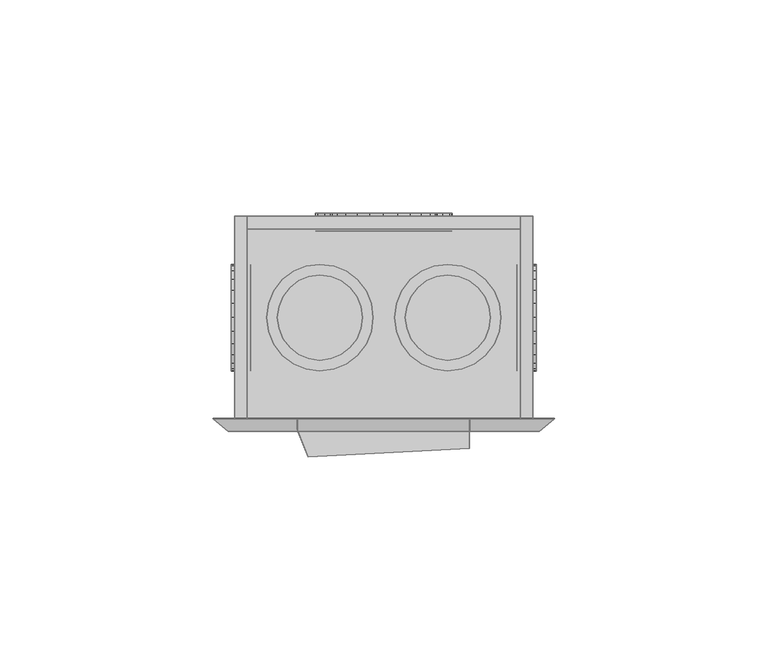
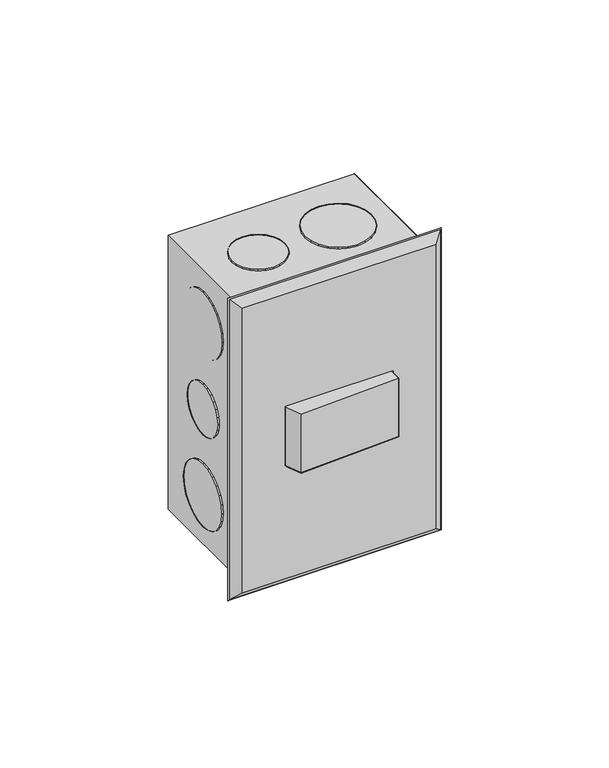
"""IFC4 building model written with IfcOpenShell, lengths in millimetres: proxy geometry,  210641 :  210641."""

from ifc_helpers import new_model, si_unit, origin, place, context, project, spatial, triangles, source, transform, mapped, element, save


def generic_models_0c8ca5c7(model_context):
    return source(origin(), model_context, "Body", "Tessellation", [
        triangles([(1721.3399895, 27548.6998535, 1254.3000378), (1718.3400272, 27548.6998535, 1148.7000154), (1721.3399895, 27548.6998535, 1145.6999805), (1718.3400272, 27548.6998535, 1251.2999302), (1651.3400471, 27548.6998535, 1254.3000378), (1654.3400093, 27548.6998535, 1251.2999302), (1651.3400471, 27548.6998535, 1145.6999805), (1654.3400093, 27548.6998535, 1148.7000154), (1718.3400272, 27596.1992798, 1251.2999302), (1718.3400272, 27596.1992798, 1148.7000154), (1651.3400471, 27596.1992798, 1254.3000378), (1651.3400471, 27596.1992798, 1145.6999805), (1654.3400093, 27596.1992798, 1251.2999302), (1721.3399895, 27596.1992798, 1145.6999805), (1654.3400093, 27596.1992798, 1148.7000154), (1721.3399895, 27596.1992798, 1254.3000378), (1718.3400272, 27593.1994629, 1251.2999302), (1654.3400093, 27593.1994629, 1148.7000154), (1718.3400272, 27593.1994629, 1148.7000154), (1654.3400093, 27593.1994629, 1251.2999302), (1700.2399693, 27592.6994934, 1191.9999887), (1694.3400387, 27592.6994934, 1186.0999855), (1697.6399826, 27592.6994934, 1188.6999722), (1701.8400169, 27592.6994934, 1195.8999687), (1690.5399799, 27592.6994934, 1184.5000105), (1702.3399864, 27592.6994934, 1200.0000092), (1686.3399456, 27592.6994934, 1183.9999683), (1701.8400169, 27592.6994934, 1204.0999769), (1682.2400505, 27592.6994934, 1184.5000105), (1700.2399693, 27592.6994934, 1208.0000296), (1678.3399979, 27592.6994934, 1186.0999855), (1697.6399826, 27592.6994934, 1211.2999735), (1675.0400539, 27592.6994934, 1188.6999722), (1694.3400387, 27592.6994934, 1213.9000328), (1672.5400612, 27592.6994934, 1191.9999887), (1690.5399799, 27592.6994934, 1215.5000078), (1670.9400135, 27592.6994934, 1195.8999687), (1686.3399456, 27592.6994934, 1215.9999773), (1670.3400501, 27592.6994934, 1200.0000092), (1682.2400505, 27592.6994934, 1215.5000078), (1670.9400135, 27592.6994934, 1204.0999769), (1678.3399979, 27592.6994934, 1213.9000328), (1672.5400612, 27592.6994934, 1208.0000296), (1675.0400539, 27592.6994934, 1211.2999735), (1682.2400505, 27596.8992371, 1184.5000105), (1686.3399456, 27596.8992371, 1183.9999683), (1690.5399799, 27596.8992371, 1184.5000105), (1694.3400387, 27596.8992371, 1186.0999855), (1697.6399826, 27596.8992371, 1188.6999722), (1700.2399693, 27596.8992371, 1191.9999887), (1701.8400169, 27596.8992371, 1195.8999687), (1702.3399864, 27596.8992371, 1200.0000092), (1701.8400169, 27596.8992371, 1204.0999769), (1700.2399693, 27596.8992371, 1208.0000296), (1697.6399826, 27596.8992371, 1211.2999735), (1694.3400387, 27596.8992371, 1213.9000328), (1690.5399799, 27596.8992371, 1215.5000078), (1686.3399456, 27596.8992371, 1215.9999773), (1682.2400505, 27596.8992371, 1215.5000078), (1678.3399979, 27596.8992371, 1213.9000328), (1675.0400539, 27596.8992371, 1211.2999735), (1672.5400612, 27596.8992371, 1208.0000296), (1670.9400135, 27596.8992371, 1204.0999769), (1670.3400501, 27596.8992371, 1200.0000092), (1670.9400135, 27596.8992371, 1195.8999687), (1672.5400612, 27596.8992371, 1191.9999887), (1675.0400539, 27596.8992371, 1188.6999722), (1678.3399979, 27596.8992371, 1186.0999855), (1697.240007, 27592.6994934, 1227.8000565), (1692.6399971, 27592.6994934, 1223.2000465), (1695.2399837, 27592.6994934, 1225.2000698), (1698.4399338, 27592.6994934, 1230.8000187), (1689.6400349, 27592.6994934, 1221.8999805), (1698.8400547, 27592.6994934, 1233.9999687), (1686.3399456, 27592.6994934, 1221.500005), (1698.4399338, 27592.6994934, 1237.2000641), (1683.1399956, 27592.6994934, 1221.8999805), (1697.240007, 27592.6994934, 1240.3000202), (1680.1400333, 27592.6994934, 1223.2000465), (1695.2399837, 27592.6994934, 1242.800013), (1677.5400467, 27592.6994934, 1225.2000698), (1675.5400234, 27592.6994934, 1227.8000565), (1692.6399971, 27592.6994934, 1244.8000362), (1689.6400349, 27592.6994934, 1246.0999569), (1674.3399513, 27592.6994934, 1230.8000187), (1686.3399456, 27592.6994934, 1246.4999325), (1673.8399818, 27592.6994934, 1233.9999687), (1683.1399956, 27592.6994934, 1246.0999569), (1674.3399513, 27592.6994934, 1237.2000641), (1675.5400234, 27592.6994934, 1240.3000202), (1680.1400333, 27592.6994934, 1244.8000362), (1677.5400467, 27592.6994934, 1242.800013), (1674.3399513, 27596.8992371, 1230.8000187), (1675.5400234, 27596.8992371, 1227.8000565), (1677.5400467, 27596.8992371, 1225.2000698), (1680.1400333, 27596.8992371, 1223.2000465), (1683.1399956, 27596.8992371, 1221.8999805), (1686.3399456, 27596.8992371, 1221.500005), (1689.6400349, 27596.8992371, 1221.8999805), (1692.6399971, 27596.8992371, 1223.2000465), (1695.2399837, 27596.8992371, 1225.2000698), (1697.240007, 27596.8992371, 1227.8000565), (1698.4399338, 27596.8992371, 1230.8000187), (1698.8400547, 27596.8992371, 1233.9999687), (1698.4399338, 27596.8992371, 1237.2000641), (1697.240007, 27596.8992371, 1240.3000202), (1695.2399837, 27596.8992371, 1242.800013), (1692.6399971, 27596.8992371, 1244.8000362), (1689.6400349, 27596.8992371, 1246.0999569), (1686.3399456, 27596.8992371, 1246.4999325), (1683.1399956, 27596.8992371, 1246.0999569), (1680.1400333, 27596.8992371, 1244.8000362), (1677.5400467, 27596.8992371, 1242.800013), (1675.5400234, 27596.8992371, 1240.3000202), (1674.3399513, 27596.8992371, 1237.2000641), (1673.8399818, 27596.8992371, 1233.9999687), (1692.6399971, 27596.8992371, 1155.1999821), (1697.240007, 27596.8992371, 1159.6999981), (1695.2399837, 27596.8992371, 1157.2000053), (1689.6400349, 27596.8992371, 1153.8999887), (1698.4399338, 27596.8992371, 1162.8000269), (1686.3399456, 27596.8992371, 1153.5000132), (1698.8400547, 27596.8992371, 1165.9999769), (1683.1399956, 27596.8992371, 1153.8999887), (1698.4399338, 27596.8992371, 1169.1999996), (1680.1400333, 27596.8992371, 1155.1999821), (1697.240007, 27596.8992371, 1172.2000345), (1677.5400467, 27596.8992371, 1157.2000053), (1695.2399837, 27596.8992371, 1174.8000212), (1675.5400234, 27596.8992371, 1159.6999981), (1692.6399971, 27596.8992371, 1176.7999718), (1674.3399513, 27596.8992371, 1162.8000269), (1689.6400349, 27596.8992371, 1178.0999651), (1686.3399456, 27596.8992371, 1178.5000134), (1673.8399818, 27596.8992371, 1165.9999769), (1674.3399513, 27596.8992371, 1169.1999996), (1683.1399956, 27596.8992371, 1178.0999651), (1675.5400234, 27596.8992371, 1172.2000345), (1680.1400333, 27596.8992371, 1176.7999718), (1677.5400467, 27596.8992371, 1174.8000212), (1689.6400349, 27592.6994934, 1178.0999651), (1686.3399456, 27592.6994934, 1178.5000134), (1692.6399971, 27592.6994934, 1176.7999718), (1695.2399837, 27592.6994934, 1174.8000212), (1697.240007, 27592.6994934, 1172.2000345), (1698.4399338, 27592.6994934, 1169.1999996), (1698.8400547, 27592.6994934, 1165.9999769), (1698.4399338, 27592.6994934, 1162.8000269), (1697.240007, 27592.6994934, 1159.6999981), (1695.2399837, 27592.6994934, 1157.2000053), (1692.6399971, 27592.6994934, 1155.1999821), (1689.6400349, 27592.6994934, 1153.8999887), (1686.3399456, 27592.6994934, 1153.5000132), (1683.1399956, 27592.6994934, 1153.8999887), (1680.1400333, 27592.6994934, 1155.1999821), (1677.5400467, 27592.6994934, 1157.2000053), (1675.5400234, 27592.6994934, 1159.6999981), (1674.3399513, 27592.6994934, 1162.8000269), (1673.8399818, 27592.6994934, 1165.9999769), (1674.3399513, 27592.6994934, 1169.1999996), (1675.5400234, 27592.6994934, 1172.2000345), (1677.5400467, 27592.6994934, 1174.8000212), (1680.1400333, 27592.6994934, 1176.7999718), (1683.1399956, 27592.6994934, 1178.0999651), (1717.5399307, 27577.4004272, 1191.3000315), (1717.5399307, 27581.1002014, 1195.0000237), (1717.5399307, 27579.5002991, 1192.9000065), (1717.5399307, 27582.1001404, 1197.4000225), (1717.5399307, 27575.0005737, 1190.3000198), (1717.5399307, 27582.4001221, 1200.0000092), (1717.5399307, 27572.4007324, 1189.9999655), (1717.5399307, 27569.900885, 1190.3000198), (1717.5399307, 27582.1001404, 1202.5999958), (1717.5399307, 27581.1002014, 1204.9999947), (1717.5399307, 27567.4010376, 1191.3000315), (1717.5399307, 27579.5002991, 1207.1000118), (1717.5399307, 27565.4011597, 1192.9000065), (1717.5399307, 27563.7989319, 1195.0000237), (1717.5399307, 27577.4004272, 1208.6999868), (1717.5399307, 27562.7989929, 1197.4000225), (1717.5399307, 27575.0005737, 1209.6999985), (1717.5399307, 27562.3990173, 1200.0000092), (1717.5399307, 27572.4007324, 1209.9999802), (1717.5399307, 27562.7989929, 1202.5999958), (1717.5399307, 27569.900885, 1209.6999985), (1717.5399307, 27567.4010376, 1208.6999868), (1717.5399307, 27563.7989319, 1204.9999947), (1717.5399307, 27565.4011597, 1207.1000118), (1722.1399406, 27572.4007324, 1189.9999655), (1722.1399406, 27575.0005737, 1190.3000198), (1722.1399406, 27569.900885, 1190.3000198), (1722.1399406, 27567.4010376, 1191.3000315), (1722.1399406, 27565.4011597, 1192.9000065), (1722.1399406, 27563.7989319, 1195.0000237), (1722.1399406, 27562.7989929, 1197.4000225), (1722.1399406, 27562.3990173, 1200.0000092), (1722.1399406, 27562.7989929, 1202.5999958), (1722.1399406, 27563.7989319, 1204.9999947), (1722.1399406, 27565.4011597, 1207.1000118), (1722.1399406, 27567.4010376, 1208.6999868), (1722.1399406, 27569.900885, 1209.6999985), (1722.1399406, 27572.4007324, 1209.9999802), (1722.1399406, 27575.0005737, 1209.6999985), (1722.1399406, 27577.4004272, 1208.6999868), (1722.1399406, 27579.5002991, 1207.1000118), (1722.1399406, 27581.1002014, 1204.9999947), (1722.1399406, 27582.1001404, 1202.5999958), (1722.1399406, 27582.4001221, 1200.0000092), (1722.1399406, 27582.1001404, 1197.4000225), (1722.1399406, 27581.1002014, 1195.0000237), (1722.1399406, 27579.5002991, 1192.9000065), (1722.1399406, 27577.4004272, 1191.3000315), (1717.5399307, 27578.7003479, 1223.2000465), (1717.5399307, 27583.3000671, 1227.8000565), (1717.5399307, 27581.3001892, 1225.2000698), (1717.5399307, 27575.700531, 1221.8999805), (1717.5399307, 27584.4999939, 1230.8000187), (1717.5399307, 27584.8999695, 1233.9999687), (1717.5399307, 27572.4007324, 1221.500005), (1717.5399307, 27569.2009277, 1221.8999805), (1717.5399307, 27584.4999939, 1237.2000641), (1717.5399307, 27583.3000671, 1240.3000202), (1717.5399307, 27566.2011108, 1223.2000465), (1717.5399307, 27563.5989441, 1225.2000698), (1717.5399307, 27581.3001892, 1242.800013), (1717.5399307, 27561.5990662, 1227.8000565), (1717.5399307, 27578.7003479, 1244.8000362), (1717.5399307, 27560.3991394, 1230.8000187), (1717.5399307, 27575.700531, 1246.0999569), (1717.5399307, 27559.8991699, 1233.9999687), (1717.5399307, 27572.4007324, 1246.4999325), (1717.5399307, 27560.3991394, 1237.2000641), (1717.5399307, 27569.2009277, 1246.0999569), (1717.5399307, 27561.5990662, 1240.3000202), (1717.5399307, 27566.2011108, 1244.8000362), (1717.5399307, 27563.5989441, 1242.800013), (1722.1399406, 27572.4007324, 1221.500005), (1722.1399406, 27575.700531, 1221.8999805), (1722.1399406, 27569.2009277, 1221.8999805), (1722.1399406, 27566.2011108, 1223.2000465), (1722.1399406, 27563.5989441, 1225.2000698), (1722.1399406, 27561.5990662, 1227.8000565), (1722.1399406, 27560.3991394, 1230.8000187), (1722.1399406, 27559.8991699, 1233.9999687), (1722.1399406, 27560.3991394, 1237.2000641), (1722.1399406, 27561.5990662, 1240.3000202), (1722.1399406, 27563.5989441, 1242.800013), (1722.1399406, 27566.2011108, 1244.8000362), (1722.1399406, 27569.2009277, 1246.0999569), (1722.1399406, 27572.4007324, 1246.4999325), (1722.1399406, 27575.700531, 1246.0999569), (1722.1399406, 27578.7003479, 1244.8000362), (1722.1399406, 27581.3001892, 1242.800013), (1722.1399406, 27583.3000671, 1240.3000202), (1722.1399406, 27584.4999939, 1237.2000641), (1722.1399406, 27584.8999695, 1233.9999687), (1722.1399406, 27584.4999939, 1230.8000187), (1722.1399406, 27583.3000671, 1227.8000565), (1722.1399406, 27581.3001892, 1225.2000698), (1722.1399406, 27578.7003479, 1223.2000465), (1722.1399406, 27583.3000671, 1159.6999981), (1722.1399406, 27578.7003479, 1155.1999821), (1722.1399406, 27581.3001892, 1157.2000053), (1722.1399406, 27584.4999939, 1162.8000269), (1722.1399406, 27575.700531, 1153.8999887), (1722.1399406, 27584.8999695, 1165.9999769), (1722.1399406, 27572.4007324, 1153.5000132), (1722.1399406, 27584.4999939, 1169.1999996), (1722.1399406, 27569.2009277, 1153.8999887), (1722.1399406, 27583.3000671, 1172.2000345), (1722.1399406, 27566.2011108, 1155.1999821), (1722.1399406, 27581.3001892, 1174.8000212), (1722.1399406, 27563.5989441, 1157.2000053), (1722.1399406, 27578.7003479, 1176.7999718), (1722.1399406, 27561.5990662, 1159.6999981), (1722.1399406, 27575.700531, 1178.0999651), (1722.1399406, 27560.3991394, 1162.8000269), (1722.1399406, 27572.4007324, 1178.5000134), (1722.1399406, 27559.8991699, 1165.9999769), (1722.1399406, 27569.2009277, 1178.0999651), (1722.1399406, 27560.3991394, 1169.1999996), (1722.1399406, 27566.2011108, 1176.7999718), (1722.1399406, 27561.5990662, 1172.2000345), (1722.1399406, 27563.5989441, 1174.8000212), (1717.5399307, 27575.700531, 1178.0999651), (1717.5399307, 27572.4007324, 1178.5000134), (1717.5399307, 27569.2009277, 1178.0999651), (1717.5399307, 27566.2011108, 1176.7999718), (1717.5399307, 27563.5989441, 1174.8000212), (1717.5399307, 27561.5990662, 1172.2000345), (1717.5399307, 27560.3991394, 1169.1999996), (1717.5399307, 27559.8991699, 1165.9999769), (1717.5399307, 27560.3991394, 1162.8000269), (1717.5399307, 27561.5990662, 1159.6999981), (1717.5399307, 27563.5989441, 1157.2000053), (1717.5399307, 27566.2011108, 1155.1999821), (1717.5399307, 27569.2009277, 1153.8999887), (1717.5399307, 27572.4007324, 1153.5000132), (1717.5399307, 27575.700531, 1153.8999887), (1717.5399307, 27578.7003479, 1155.1999821), (1717.5399307, 27581.3001892, 1157.2000053), (1717.5399307, 27583.3000671, 1159.6999981), (1717.5399307, 27584.4999939, 1162.8000269), (1717.5399307, 27584.8999695, 1165.9999769), (1717.5399307, 27584.4999939, 1169.1999996), (1717.5399307, 27583.3000671, 1172.2000345), (1717.5399307, 27581.3001892, 1174.8000212), (1717.5399307, 27578.7003479, 1176.7999718), (1655.1399605, 27581.1002014, 1195.0000237), (1655.1399605, 27577.4004272, 1191.3000315), (1655.1399605, 27579.5002991, 1192.9000065), (1655.1399605, 27582.1001404, 1197.4000225), (1655.1399605, 27575.0005737, 1190.3000198), (1655.1399605, 27582.4001221, 1200.0000092), (1655.1399605, 27572.4007324, 1189.9999655), (1655.1399605, 27582.1001404, 1202.5999958), (1655.1399605, 27569.900885, 1190.3000198), (1655.1399605, 27581.1002014, 1204.9999947), (1655.1399605, 27567.4010376, 1191.3000315), (1655.1399605, 27579.5002991, 1207.1000118), (1655.1399605, 27565.4011597, 1192.9000065), (1655.1399605, 27577.4004272, 1208.6999868), (1655.1399605, 27563.7989319, 1195.0000237), (1655.1399605, 27575.0005737, 1209.6999985), (1655.1399605, 27562.7989929, 1197.4000225), (1655.1399605, 27562.3990173, 1200.0000092), (1655.1399605, 27572.4007324, 1209.9999802), (1655.1399605, 27569.900885, 1209.6999985), (1655.1399605, 27562.7989929, 1202.5999958), (1655.1399605, 27567.4010376, 1208.6999868), (1655.1399605, 27563.7989319, 1204.9999947), (1655.1399605, 27565.4011597, 1207.1000118), (1650.5399506, 27575.0005737, 1209.6999985), (1650.5399506, 27572.4007324, 1209.9999802), (1650.5399506, 27569.900885, 1209.6999985), (1650.5399506, 27567.4010376, 1208.6999868), (1650.5399506, 27565.4011597, 1207.1000118), (1650.5399506, 27563.7989319, 1204.9999947), (1650.5399506, 27562.7989929, 1202.5999958), (1650.5399506, 27562.3990173, 1200.0000092), (1650.5399506, 27562.7989929, 1197.4000225), (1650.5399506, 27563.7989319, 1195.0000237), (1650.5399506, 27565.4011597, 1192.9000065), (1650.5399506, 27567.4010376, 1191.3000315), (1650.5399506, 27569.900885, 1190.3000198), (1650.5399506, 27572.4007324, 1189.9999655), (1650.5399506, 27575.0005737, 1190.3000198), (1650.5399506, 27577.4004272, 1191.3000315), (1650.5399506, 27579.5002991, 1192.9000065), (1650.5399506, 27581.1002014, 1195.0000237), (1650.5399506, 27582.1001404, 1197.4000225), (1650.5399506, 27582.4001221, 1200.0000092), (1650.5399506, 27582.1001404, 1202.5999958), (1650.5399506, 27581.1002014, 1204.9999947), (1650.5399506, 27579.5002991, 1207.1000118), (1650.5399506, 27577.4004272, 1208.6999868), (1655.1399605, 27583.3000671, 1159.6999981), (1655.1399605, 27578.7003479, 1155.1999821), (1655.1399605, 27581.3001892, 1157.2000053), (1655.1399605, 27584.4999939, 1162.8000269), (1655.1399605, 27575.700531, 1153.8999887), (1655.1399605, 27584.8999695, 1165.9999769), (1655.1399605, 27572.4007324, 1153.5000132), (1655.1399605, 27584.4999939, 1169.1999996), (1655.1399605, 27569.2009277, 1153.8999887), (1655.1399605, 27583.3000671, 1172.2000345), (1655.1399605, 27566.2011108, 1155.1999821), (1655.1399605, 27581.3001892, 1174.8000212), (1655.1399605, 27563.5989441, 1157.2000053), (1655.1399605, 27578.7003479, 1176.7999718), (1655.1399605, 27561.5990662, 1159.6999981), (1655.1399605, 27575.700531, 1178.0999651), (1655.1399605, 27560.3991394, 1162.8000269), (1655.1399605, 27572.4007324, 1178.5000134), (1655.1399605, 27559.8991699, 1165.9999769), (1655.1399605, 27569.2009277, 1178.0999651), (1655.1399605, 27560.3991394, 1169.1999996), (1655.1399605, 27566.2011108, 1176.7999718), (1655.1399605, 27561.5990662, 1172.2000345), (1655.1399605, 27563.5989441, 1174.8000212), (1650.5399506, 27575.700531, 1178.0999651), (1650.5399506, 27572.4007324, 1178.5000134), (1650.5399506, 27569.2009277, 1178.0999651), (1650.5399506, 27566.2011108, 1176.7999718), (1650.5399506, 27563.5989441, 1174.8000212), (1650.5399506, 27561.5990662, 1172.2000345), (1650.5399506, 27560.3991394, 1169.1999996), (1650.5399506, 27559.8991699, 1165.9999769), (1650.5399506, 27560.3991394, 1162.8000269), (1650.5399506, 27561.5990662, 1159.6999981), (1650.5399506, 27563.5989441, 1157.2000053), (1650.5399506, 27566.2011108, 1155.1999821), (1650.5399506, 27569.2009277, 1153.8999887), (1650.5399506, 27572.4007324, 1153.5000132), (1650.5399506, 27575.700531, 1153.8999887), (1650.5399506, 27578.7003479, 1155.1999821), (1650.5399506, 27581.3001892, 1157.2000053), (1650.5399506, 27583.3000671, 1159.6999981), (1650.5399506, 27584.4999939, 1162.8000269), (1650.5399506, 27584.8999695, 1165.9999769), (1650.5399506, 27584.4999939, 1169.1999996), (1650.5399506, 27583.3000671, 1172.2000345), (1650.5399506, 27581.3001892, 1174.8000212), (1650.5399506, 27578.7003479, 1176.7999718), (1650.5399506, 27578.7003479, 1223.2000465), (1650.5399506, 27583.3000671, 1227.8000565), (1650.5399506, 27581.3001892, 1225.2000698), (1650.5399506, 27575.700531, 1221.8999805), (1650.5399506, 27584.4999939, 1230.8000187), (1650.5399506, 27584.8999695, 1233.9999687), (1650.5399506, 27572.4007324, 1221.500005), (1650.5399506, 27569.2009277, 1221.8999805), (1650.5399506, 27584.4999939, 1237.2000641), (1650.5399506, 27583.3000671, 1240.3000202), (1650.5399506, 27566.2011108, 1223.2000465), (1650.5399506, 27563.5989441, 1225.2000698), (1650.5399506, 27581.3001892, 1242.800013), (1650.5399506, 27561.5990662, 1227.8000565), (1650.5399506, 27578.7003479, 1244.8000362), (1650.5399506, 27560.3991394, 1230.8000187), (1650.5399506, 27575.700531, 1246.0999569), (1650.5399506, 27559.8991699, 1233.9999687), (1650.5399506, 27572.4007324, 1246.4999325), (1650.5399506, 27560.3991394, 1237.2000641), (1650.5399506, 27569.2009277, 1246.0999569), (1650.5399506, 27561.5990662, 1240.3000202), (1650.5399506, 27566.2011108, 1244.8000362), (1650.5399506, 27563.5989441, 1242.800013), (1655.1399605, 27572.4007324, 1221.500005), (1655.1399605, 27575.700531, 1221.8999805), (1655.1399605, 27569.2009277, 1221.8999805), (1655.1399605, 27566.2011108, 1223.2000465), (1655.1399605, 27563.5989441, 1225.2000698), (1655.1399605, 27561.5990662, 1227.8000565), (1655.1399605, 27560.3991394, 1230.8000187), (1655.1399605, 27559.8991699, 1233.9999687), (1655.1399605, 27560.3991394, 1237.2000641), (1655.1399605, 27561.5990662, 1240.3000202), (1655.1399605, 27563.5989441, 1242.800013), (1655.1399605, 27566.2011108, 1244.8000362), (1655.1399605, 27569.2009277, 1246.0999569), (1655.1399605, 27572.4007324, 1246.4999325), (1655.1399605, 27575.700531, 1246.0999569), (1655.1399605, 27578.7003479, 1244.8000362), (1655.1399605, 27581.3001892, 1242.800013), (1655.1399605, 27583.3000671, 1240.3000202), (1655.1399605, 27584.4999939, 1237.2000641), (1655.1399605, 27584.8999695, 1233.9999687), (1655.1399605, 27584.4999939, 1230.8000187), (1655.1399605, 27583.3000671, 1227.8000565), (1655.1399605, 27581.3001892, 1225.2000698), (1655.1399605, 27578.7003479, 1223.2000465), (1712.2399635, 27578.7003479, 1250.9999485), (1707.6399536, 27583.3000671, 1250.9999485), (1710.2399403, 27581.3001892, 1250.9999485), (1713.4400356, 27575.700531, 1250.9999485), (1704.6399914, 27584.4999939, 1250.9999485), (1701.3400475, 27584.8999695, 1250.9999485), (1713.8400112, 27572.4007324, 1250.9999485), (1713.4400356, 27569.2009277, 1250.9999485), (1698.1399521, 27584.4999939, 1250.9999485), (1695.1399899, 27583.3000671, 1250.9999485), (1712.2399635, 27566.2011108, 1250.9999485), (1710.2399403, 27563.5989441, 1250.9999485), (1692.5400032, 27581.3001892, 1250.9999485), (1690.5399799, 27578.7003479, 1250.9999485), (1707.6399536, 27561.5990662, 1250.9999485), (1704.6399914, 27560.3991394, 1250.9999485), (1689.3400532, 27575.700531, 1250.9999485), (1701.3400475, 27559.8991699, 1250.9999485), (1688.8399384, 27572.4007324, 1250.9999485), (1698.1399521, 27560.3991394, 1250.9999485), (1689.3400532, 27569.2009277, 1250.9999485), (1690.5399799, 27566.2011108, 1250.9999485), (1695.1399899, 27561.5990662, 1250.9999485), (1692.5400032, 27563.5989441, 1250.9999485), (1701.3400475, 27584.8999695, 1255.1999828), (1698.1399521, 27584.4999939, 1255.1999828), (1704.6399914, 27584.4999939, 1255.1999828), (1707.6399536, 27583.3000671, 1255.1999828), (1710.2399403, 27581.3001892, 1255.1999828), (1712.2399635, 27578.7003479, 1255.1999828), (1713.4400356, 27575.700531, 1255.1999828), (1713.8400112, 27572.4007324, 1255.1999828), (1713.4400356, 27569.2009277, 1255.1999828), (1712.2399635, 27566.2011108, 1255.1999828), (1710.2399403, 27563.5989441, 1255.1999828), (1707.6399536, 27561.5990662, 1255.1999828), (1704.6399914, 27560.3991394, 1255.1999828), (1701.3400475, 27559.8991699, 1255.1999828), (1698.1399521, 27560.3991394, 1255.1999828), (1695.1399899, 27561.5990662, 1255.1999828), (1692.5400032, 27563.5989441, 1255.1999828), (1690.5399799, 27566.2011108, 1255.1999828), (1689.3400532, 27569.2009277, 1255.1999828), (1688.8399384, 27572.4007324, 1255.1999828), (1689.3400532, 27575.700531, 1255.1999828), (1690.5399799, 27578.7003479, 1255.1999828), (1692.5400032, 27581.3001892, 1255.1999828), (1695.1399899, 27583.3000671, 1255.1999828), (1680.0400394, 27577.4004272, 1250.9999485), (1676.3399746, 27581.1002014, 1250.9999485), (1678.4399918, 27579.5002991, 1250.9999485), (1673.9399757, 27582.1001404, 1250.9999485), (1681.0399784, 27575.0005737, 1250.9999485), (1671.3399891, 27582.4001221, 1250.9999485), (1681.3399601, 27572.4007324, 1250.9999485), (1681.0399784, 27569.900885, 1250.9999485), (1668.7400024, 27582.1001404, 1250.9999485), (1666.3400036, 27581.1002014, 1250.9999485), (1680.0400394, 27567.4010376, 1250.9999485), (1664.3399803, 27579.5002991, 1250.9999485), (1678.4399918, 27565.4011597, 1250.9999485), (1676.3399746, 27563.7989319, 1250.9999485), (1662.7399326, 27577.4004272, 1250.9999485), (1661.7399937, 27575.0005737, 1250.9999485), (1673.9399757, 27562.7989929, 1250.9999485), (1671.3399891, 27562.3990173, 1250.9999485), (1661.3400181, 27572.4007324, 1250.9999485), (1668.7400024, 27562.7989929, 1250.9999485), (1661.7399937, 27569.900885, 1250.9999485), (1666.3400036, 27563.7989319, 1250.9999485), (1662.7399326, 27567.4010376, 1250.9999485), (1664.3399803, 27565.4011597, 1250.9999485), (1668.7400024, 27582.1001404, 1255.1999828), (1666.3400036, 27581.1002014, 1255.1999828), (1671.3399891, 27582.4001221, 1255.1999828), (1673.9399757, 27582.1001404, 1255.1999828), (1676.3399746, 27581.1002014, 1255.1999828), (1678.4399918, 27579.5002991, 1255.1999828), (1680.0400394, 27577.4004272, 1255.1999828), (1681.0399784, 27575.0005737, 1255.1999828), (1681.3399601, 27572.4007324, 1255.1999828), (1681.0399784, 27569.900885, 1255.1999828), (1680.0400394, 27567.4010376, 1255.1999828), (1678.4399918, 27565.4011597, 1255.1999828), (1676.3399746, 27563.7989319, 1255.1999828), (1673.9399757, 27562.7989929, 1255.1999828), (1671.3399891, 27562.3990173, 1255.1999828), (1668.7400024, 27562.7989929, 1255.1999828), (1666.3400036, 27563.7989319, 1255.1999828), (1664.3399803, 27565.4011597, 1255.1999828), (1662.7399326, 27567.4010376, 1255.1999828), (1661.7399937, 27569.900885, 1255.1999828), (1661.3400181, 27572.4007324, 1255.1999828), (1661.7399937, 27575.0005737, 1255.1999828), (1662.7399326, 27577.4004272, 1255.1999828), (1664.3399803, 27579.5002991, 1255.1999828), (1710.0399525, 27577.4004272, 1144.8000355), (1706.340033, 27581.1002014, 1144.8000355), (1708.4400501, 27579.5002991, 1144.8000355), (1703.9400341, 27582.1001404, 1144.8000355), (1711.0400368, 27575.0005737, 1144.8000355), (1701.3400475, 27582.4001221, 1144.8000355), (1711.3400185, 27572.4007324, 1144.8000355), (1711.0400368, 27569.900885, 1144.8000355), (1698.7400608, 27582.1001404, 1144.8000355), (1696.340062, 27581.1002014, 1144.8000355), (1710.0399525, 27567.4010376, 1144.8000355), (1694.3400387, 27579.5002991, 1144.8000355), (1708.4400501, 27565.4011597, 1144.8000355), (1706.340033, 27563.7989319, 1144.8000355), (1692.739991, 27577.4004272, 1144.8000355), (1691.740052, 27575.0005737, 1144.8000355), (1703.9400341, 27562.7989929, 1144.8000355), (1701.3400475, 27562.3990173, 1144.8000355), (1691.3399311, 27572.4007324, 1144.8000355), (1698.7400608, 27562.7989929, 1144.8000355), (1691.740052, 27569.900885, 1144.8000355), (1696.340062, 27563.7989319, 1144.8000355), (1692.739991, 27567.4010376, 1144.8000355), (1694.3400387, 27565.4011597, 1144.8000355), (1703.9400341, 27582.1001404, 1149.099991), (1701.3400475, 27582.4001221, 1149.099991), (1706.340033, 27581.1002014, 1149.099991), (1708.4400501, 27579.5002991, 1149.099991), (1710.0399525, 27577.4004272, 1149.099991), (1711.0400368, 27575.0005737, 1149.099991), (1711.3400185, 27572.4007324, 1149.099991), (1711.0400368, 27569.900885, 1149.099991), (1710.0399525, 27567.4010376, 1149.099991), (1708.4400501, 27565.4011597, 1149.099991), (1706.340033, 27563.7989319, 1149.099991), (1703.9400341, 27562.7989929, 1149.099991), (1701.3400475, 27562.3990173, 1149.099991), (1698.7400608, 27562.7989929, 1149.099991), (1696.340062, 27563.7989319, 1149.099991), (1694.3400387, 27565.4011597, 1149.099991), (1692.739991, 27567.4010376, 1149.099991), (1691.740052, 27569.900885, 1149.099991), (1691.3399311, 27572.4007324, 1149.099991), (1691.740052, 27575.0005737, 1149.099991), (1692.739991, 27577.4004272, 1149.099991), (1694.3400387, 27579.5002991, 1149.099991), (1696.340062, 27581.1002014, 1149.099991), (1698.7400608, 27582.1001404, 1149.099991), (1682.2400505, 27578.7003479, 1144.8000355), (1677.6400406, 27583.3000671, 1144.8000355), (1680.2400272, 27581.3001892, 1144.8000355), (1683.4399773, 27575.700531, 1144.8000355), (1674.639933, 27584.4999939, 1144.8000355), (1671.3399891, 27584.8999695, 1144.8000355), (1683.8399529, 27572.4007324, 1144.8000355), (1683.4399773, 27569.2009277, 1144.8000355), (1668.1400391, 27584.4999939, 1144.8000355), (1665.1399315, 27583.3000671, 1144.8000355), (1682.2400505, 27566.2011108, 1144.8000355), (1680.2400272, 27563.5989441, 1144.8000355), (1662.5399448, 27581.3001892, 1144.8000355), (1660.5400669, 27578.7003479, 1144.8000355), (1677.6400406, 27561.5990662, 1144.8000355), (1674.639933, 27560.3991394, 1144.8000355), (1659.3399948, 27575.700531, 1144.8000355), (1671.3399891, 27559.8991699, 1144.8000355), (1658.8400253, 27572.4007324, 1144.8000355), (1668.1400391, 27560.3991394, 1144.8000355), (1659.3399948, 27569.2009277, 1144.8000355), (1660.5400669, 27566.2011108, 1144.8000355), (1665.1399315, 27561.5990662, 1144.8000355), (1662.5399448, 27563.5989441, 1144.8000355), (1668.1400391, 27584.4999939, 1149.099991), (1665.1399315, 27583.3000671, 1149.099991), (1671.3399891, 27584.8999695, 1149.099991), (1674.639933, 27584.4999939, 1149.099991), (1677.6400406, 27583.3000671, 1149.099991), (1680.2400272, 27581.3001892, 1149.099991), (1682.2400505, 27578.7003479, 1149.099991), (1683.4399773, 27575.700531, 1149.099991), (1683.8399529, 27572.4007324, 1149.099991), (1683.4399773, 27569.2009277, 1149.099991), (1682.2400505, 27566.2011108, 1149.099991), (1680.2400272, 27563.5989441, 1149.099991), (1677.6400406, 27561.5990662, 1149.099991), (1674.639933, 27560.3991394, 1149.099991), (1671.3399891, 27559.8991699, 1149.099991), (1668.1400391, 27560.3991394, 1149.099991), (1665.1399315, 27561.5990662, 1149.099991), (1662.5399448, 27563.5989441, 1149.099991), (1660.5400669, 27566.2011108, 1149.099991), (1659.3399948, 27569.2009277, 1149.099991), (1658.8400253, 27572.4007324, 1149.099991), (1659.3399948, 27575.700531, 1149.099991), (1660.5400669, 27578.7003479, 1149.099991), (1662.5399448, 27581.3001892, 1149.099991), (1646.3400616, 27548.6998535, 1139.9999651), (1706.5400208, 27548.6998535, 1188.2999966), (1726.339975, 27548.6998535, 1139.9999651), (1666.1400158, 27548.6998535, 1188.2999966), (1646.3400616, 27548.6998535, 1259.9999805), (1666.1400158, 27548.6998535, 1211.7000217), (1726.339975, 27548.6998535, 1259.9999805), (1706.5400208, 27548.6998535, 1211.7000217), (1666.1400158, 27545.7000366, 1188.2999966), (1666.1400158, 27545.7000366, 1211.7000217), (1706.5400208, 27545.7000366, 1188.2999966), (1706.5400208, 27545.7000366, 1211.7000217), (1722.8400433, 27545.7000366, 1143.4999695), (1722.8400433, 27545.7000366, 1256.5000488), (1649.8399933, 27545.7000366, 1143.4999695), (1649.8399933, 27545.7000366, 1256.5000488), (1706.4400269, 27541.7002808, 1188.1000088), (1666.0400219, 27548.6998535, 1188.1000088), (1706.4400269, 27548.6998535, 1188.1000088), (1668.6400085, 27539.8003967, 1188.1000088), (1666.0400219, 27546.2000061, 1188.1000088), (1706.4400269, 27548.6998535, 1211.500034), (1666.0400219, 27548.6998535, 1211.500034), (1706.4400269, 27541.7002808, 1211.500034), (1668.6400085, 27539.8003967, 1211.500034), (1666.0400219, 27546.2000061, 1211.500034)], [[1, 2, 3], [2, 1, 4], [5, 4, 1], [4, 5, 6], [3, 2, 7], [7, 2, 8], [7, 8, 6], [7, 6, 5], [2, 9, 10], [9, 2, 4], [7, 11, 12], [11, 7, 5], [4, 13, 9], [13, 4, 6], [3, 12, 14], [12, 3, 7], [13, 8, 15], [8, 13, 6], [16, 3, 14], [3, 16, 1], [15, 2, 10], [2, 15, 8], [11, 1, 16], [1, 11, 5], [12, 10, 14], [10, 12, 15], [11, 15, 12], [15, 11, 13], [14, 10, 16], [16, 10, 9], [16, 9, 13], [16, 13, 11], [17, 18, 19], [18, 17, 20], [18, 13, 15], [13, 18, 20], [19, 15, 10], [15, 19, 18], [9, 19, 10], [19, 9, 17], [13, 17, 9], [17, 13, 20], [15, 9, 10], [9, 15, 13], [21, 22, 23], [22, 21, 24], [25, 22, 24], [25, 24, 26], [27, 25, 26], [27, 26, 28], [29, 27, 28], [29, 28, 30], [31, 29, 30], [31, 30, 32], [31, 32, 33], [33, 32, 34], [33, 34, 35], [35, 34, 36], [35, 36, 37], [37, 36, 38], [37, 38, 39], [39, 38, 40], [39, 40, 41], [41, 40, 42], [41, 42, 43], [43, 42, 44], [27, 45, 46], [45, 27, 29], [25, 46, 47], [46, 25, 27], [22, 47, 48], [47, 22, 25], [23, 48, 49], [48, 23, 22], [50, 23, 49], [23, 50, 21], [51, 21, 50], [21, 51, 24], [52, 24, 51], [24, 52, 26], [53, 26, 52], [26, 53, 28], [54, 28, 53], [28, 54, 30], [55, 30, 54], [30, 55, 32], [56, 32, 55], [32, 56, 34], [57, 34, 56], [34, 57, 36], [58, 36, 57], [36, 58, 38], [59, 38, 58], [38, 59, 40], [60, 40, 59], [40, 60, 42], [61, 42, 60], [42, 61, 44], [43, 61, 62], [61, 43, 44], [41, 62, 63], [62, 41, 43], [39, 63, 64], [63, 39, 41], [37, 64, 65], [64, 37, 39], [35, 65, 66], [65, 35, 37], [33, 66, 67], [66, 33, 35], [31, 67, 68], [67, 31, 33], [29, 68, 45], [68, 29, 31], [48, 50, 49], [50, 48, 47], [51, 50, 47], [51, 47, 46], [52, 51, 46], [52, 46, 45], [53, 52, 45], [53, 45, 68], [54, 53, 68], [54, 68, 67], [54, 67, 55], [55, 67, 66], [55, 66, 56], [56, 66, 65], [56, 65, 57], [57, 65, 64], [57, 64, 58], [58, 64, 63], [58, 63, 59], [59, 63, 62], [59, 62, 60], [60, 62, 61], [69, 70, 71], [70, 69, 72], [73, 70, 72], [73, 72, 74], [75, 73, 74], [75, 74, 76], [77, 75, 76], [77, 76, 78], [79, 77, 78], [79, 78, 80], [81, 79, 80], [81, 80, 82], [82, 80, 83], [82, 83, 84], [82, 84, 85], [85, 84, 86], [85, 86, 87], [87, 86, 88], [87, 88, 89], [89, 88, 90], [90, 88, 91], [90, 91, 92], [82, 93, 94], [93, 82, 85], [81, 94, 95], [94, 81, 82], [79, 95, 96], [95, 79, 81], [77, 96, 97], [96, 77, 79], [75, 97, 98], [97, 75, 77], [73, 98, 99], [98, 73, 75], [70, 99, 100], [99, 70, 73], [71, 100, 101], [100, 71, 70], [102, 71, 101], [71, 102, 69], [103, 69, 102], [69, 103, 72], [104, 72, 103], [72, 104, 74], [105, 74, 104], [74, 105, 76], [106, 76, 105], [76, 106, 78], [107, 78, 106], [78, 107, 80], [108, 80, 107], [80, 108, 83], [109, 83, 108], [83, 109, 84], [110, 84, 109], [84, 110, 86], [111, 86, 110], [86, 111, 88], [112, 88, 111], [88, 112, 91], [113, 91, 112], [91, 113, 92], [90, 113, 114], [113, 90, 92], [89, 114, 115], [114, 89, 90], [87, 115, 116], [115, 87, 89], [85, 116, 93], [116, 85, 87], [100, 102, 101], [102, 100, 99], [103, 102, 99], [103, 99, 98], [104, 103, 98], [104, 98, 97], [105, 104, 97], [106, 105, 97], [106, 97, 96], [106, 96, 95], [106, 95, 107], [107, 95, 94], [107, 94, 108], [108, 94, 93], [108, 93, 109], [109, 93, 116], [109, 116, 110], [110, 116, 115], [110, 115, 111], [111, 115, 114], [111, 114, 112], [112, 114, 113], [117, 118, 119], [118, 117, 120], [121, 118, 120], [121, 120, 122], [123, 121, 122], [123, 122, 124], [125, 123, 124], [125, 124, 126], [127, 125, 126], [127, 126, 128], [127, 128, 129], [129, 128, 130], [129, 130, 131], [131, 130, 132], [131, 132, 133], [133, 132, 134], [134, 132, 135], [134, 135, 136], [134, 136, 137], [137, 136, 138], [137, 138, 139], [139, 138, 140], [134, 141, 133], [141, 134, 142], [133, 143, 131], [143, 133, 141], [131, 144, 129], [144, 131, 143], [129, 145, 127], [145, 129, 144], [127, 146, 125], [146, 127, 145], [125, 147, 123], [147, 125, 146], [123, 148, 121], [148, 123, 147], [121, 149, 118], [149, 121, 148], [118, 150, 119], [150, 118, 149], [150, 117, 119], [117, 150, 151], [151, 120, 117], [120, 151, 152], [152, 122, 120], [122, 152, 153], [153, 124, 122], [124, 153, 154], [154, 126, 124], [126, 154, 155], [155, 128, 126], [128, 155, 156], [156, 130, 128], [130, 156, 157], [157, 132, 130], [132, 157, 158], [158, 135, 132], [135, 158, 159], [159, 136, 135], [136, 159, 160], [160, 138, 136], [138, 160, 161], [161, 140, 138], [140, 161, 162], [140, 163, 139], [163, 140, 162], [139, 164, 137], [164, 139, 163], [137, 142, 134], [142, 137, 164], [149, 151, 150], [151, 149, 148], [152, 151, 148], [153, 152, 148], [153, 148, 147], [153, 147, 146], [154, 153, 146], [154, 146, 145], [155, 154, 145], [155, 145, 144], [156, 155, 144], [156, 144, 157], [157, 144, 143], [157, 143, 141], [157, 141, 158], [158, 141, 142], [158, 142, 159], [159, 142, 164], [159, 164, 160], [160, 164, 163], [160, 163, 161], [161, 163, 162], [165, 166, 167], [168, 166, 165], [168, 165, 169], [170, 168, 169], [170, 169, 171], [170, 171, 172], [173, 170, 172], [174, 173, 172], [174, 172, 175], [176, 174, 175], [176, 175, 177], [176, 177, 178], [176, 178, 179], [179, 178, 180], [179, 180, 181], [181, 180, 182], [181, 182, 183], [183, 182, 184], [183, 184, 185], [185, 184, 186], [186, 184, 187], [186, 187, 188], [189, 169, 190], [169, 189, 171], [191, 171, 189], [171, 191, 172], [192, 172, 191], [172, 192, 175], [193, 175, 192], [175, 193, 177], [194, 177, 193], [177, 194, 178], [195, 178, 194], [178, 195, 180], [196, 180, 195], [180, 196, 182], [197, 182, 196], [182, 197, 184], [198, 184, 197], [184, 198, 187], [199, 187, 198], [187, 199, 188], [186, 199, 200], [199, 186, 188], [185, 200, 201], [200, 185, 186], [183, 201, 202], [201, 183, 185], [181, 202, 203], [202, 181, 183], [179, 203, 204], [203, 179, 181], [176, 204, 205], [204, 176, 179], [174, 205, 206], [205, 174, 176], [173, 206, 207], [206, 173, 174], [170, 207, 208], [207, 170, 173], [168, 208, 209], [208, 168, 170], [166, 209, 210], [209, 166, 168], [167, 210, 211], [210, 167, 166], [212, 167, 211], [167, 212, 165], [190, 165, 212], [165, 190, 169], [210, 212, 211], [212, 210, 209], [190, 212, 209], [190, 209, 208], [189, 190, 208], [189, 208, 207], [191, 189, 207], [191, 207, 206], [192, 191, 206], [192, 206, 205], [192, 205, 193], [193, 205, 204], [193, 204, 194], [194, 204, 203], [194, 203, 195], [195, 203, 196], [196, 203, 202], [196, 202, 201], [196, 201, 197], [197, 201, 200], [197, 200, 198], [198, 200, 199], [213, 214, 215], [214, 213, 216], [217, 214, 216], [218, 217, 216], [218, 216, 219], [218, 219, 220], [221, 218, 220], [222, 221, 220], [222, 220, 223], [222, 223, 224], [222, 224, 225], [225, 224, 226], [225, 226, 227], [227, 226, 228], [227, 228, 229], [229, 228, 230], [229, 230, 231], [231, 230, 232], [231, 232, 233], [233, 232, 234], [233, 234, 235], [235, 234, 236], [237, 216, 238], [216, 237, 219], [239, 219, 237], [219, 239, 220], [240, 220, 239], [220, 240, 223], [241, 223, 240], [223, 241, 224], [242, 224, 241], [224, 242, 226], [243, 226, 242], [226, 243, 228], [244, 228, 243], [228, 244, 230], [245, 230, 244], [230, 245, 232], [246, 232, 245], [232, 246, 234], [247, 234, 246], [234, 247, 236], [235, 247, 248], [247, 235, 236], [233, 248, 249], [248, 233, 235], [231, 249, 250], [249, 231, 233], [229, 250, 251], [250, 229, 231], [227, 251, 252], [251, 227, 229], [225, 252, 253], [252, 225, 227], [222, 253, 254], [253, 222, 225], [221, 254, 255], [254, 221, 222], [218, 255, 256], [255, 218, 221], [217, 256, 257], [256, 217, 218], [214, 257, 258], [257, 214, 217], [215, 258, 259], [258, 215, 214], [260, 215, 259], [215, 260, 213], [238, 213, 260], [213, 238, 216], [258, 260, 259], [260, 258, 257], [238, 260, 257], [238, 257, 256], [237, 238, 256], [237, 256, 255], [239, 237, 255], [239, 255, 254], [240, 239, 254], [240, 254, 253], [241, 240, 253], [241, 253, 252], [241, 252, 242], [242, 252, 251], [242, 251, 243], [243, 251, 244], [244, 251, 250], [244, 250, 249], [244, 249, 245], [245, 249, 246], [246, 249, 248], [246, 248, 247], [261, 262, 263], [262, 261, 264], [265, 262, 264], [265, 264, 266], [267, 265, 266], [267, 266, 268], [269, 267, 268], [269, 268, 270], [271, 269, 270], [271, 270, 272], [273, 271, 272], [273, 272, 274], [273, 274, 275], [275, 274, 276], [275, 276, 277], [277, 276, 278], [277, 278, 279], [279, 278, 280], [279, 280, 281], [281, 280, 282], [281, 282, 283], [283, 282, 284], [285, 278, 276], [278, 285, 286], [286, 280, 278], [280, 286, 287], [287, 282, 280], [282, 287, 288], [288, 284, 282], [284, 288, 289], [284, 290, 283], [290, 284, 289], [283, 291, 281], [291, 283, 290], [281, 292, 279], [292, 281, 291], [279, 293, 277], [293, 279, 292], [277, 294, 275], [294, 277, 293], [275, 295, 273], [295, 275, 294], [273, 296, 271], [296, 273, 295], [271, 297, 269], [297, 271, 296], [269, 298, 267], [298, 269, 297], [267, 299, 265], [299, 267, 298], [265, 300, 262], [300, 265, 299], [262, 301, 263], [301, 262, 300], [301, 261, 263], [261, 301, 302], [302, 264, 261], [264, 302, 303], [303, 266, 264], [266, 303, 304], [304, 268, 266], [268, 304, 305], [305, 270, 268], [270, 305, 306], [306, 272, 270], [272, 306, 307], [307, 274, 272], [274, 307, 308], [308, 276, 274], [276, 308, 285], [300, 302, 301], [302, 300, 299], [303, 302, 299], [303, 299, 298], [304, 303, 298], [304, 298, 297], [305, 304, 297], [305, 297, 296], [306, 305, 296], [306, 296, 295], [306, 295, 307], [307, 295, 294], [307, 294, 308], [308, 294, 293], [308, 293, 285], [285, 293, 286], [286, 293, 292], [286, 292, 291], [286, 291, 287], [287, 291, 288], [288, 291, 290], [288, 290, 289], [309, 310, 311], [310, 309, 312], [313, 310, 312], [313, 312, 314], [315, 313, 314], [315, 314, 316], [317, 315, 316], [317, 316, 318], [319, 317, 318], [319, 318, 320], [319, 320, 321], [321, 320, 322], [321, 322, 323], [323, 322, 324], [323, 324, 325], [325, 324, 326], [326, 324, 327], [326, 327, 328], [326, 328, 329], [329, 328, 330], [329, 330, 331], [331, 330, 332], [333, 327, 324], [327, 333, 334], [334, 328, 327], [328, 334, 335], [335, 330, 328], [330, 335, 336], [336, 332, 330], [332, 336, 337], [332, 338, 331], [338, 332, 337], [331, 339, 329], [339, 331, 338], [329, 340, 326], [340, 329, 339], [326, 341, 325], [341, 326, 340], [325, 342, 323], [342, 325, 341], [323, 343, 321], [343, 323, 342], [321, 344, 319], [344, 321, 343], [319, 345, 317], [345, 319, 344], [317, 346, 315], [346, 317, 345], [315, 347, 313], [347, 315, 346], [313, 348, 310], [348, 313, 347], [310, 349, 311], [349, 310, 348], [349, 309, 311], [309, 349, 350], [350, 312, 309], [312, 350, 351], [351, 314, 312], [314, 351, 352], [352, 316, 314], [316, 352, 353], [353, 318, 316], [318, 353, 354], [354, 320, 318], [320, 354, 355], [355, 322, 320], [322, 355, 356], [356, 324, 322], [324, 356, 333], [348, 350, 349], [351, 350, 348], [351, 348, 347], [352, 351, 347], [352, 347, 346], [352, 346, 345], [353, 352, 345], [354, 353, 345], [354, 345, 344], [355, 354, 344], [355, 344, 343], [355, 343, 342], [355, 342, 356], [356, 342, 341], [356, 341, 333], [333, 341, 340], [333, 340, 334], [334, 340, 339], [334, 339, 335], [335, 339, 336], [336, 339, 338], [336, 338, 337], [357, 358, 359], [358, 357, 360], [361, 358, 360], [361, 360, 362], [363, 361, 362], [363, 362, 364], [365, 363, 364], [365, 364, 366], [367, 365, 366], [367, 366, 368], [369, 367, 368], [369, 368, 370], [369, 370, 371], [371, 370, 372], [371, 372, 373], [373, 372, 374], [373, 374, 375], [375, 374, 376], [375, 376, 377], [377, 376, 378], [377, 378, 379], [379, 378, 380], [381, 374, 372], [374, 381, 382], [382, 376, 374], [376, 382, 383], [383, 378, 376], [378, 383, 384], [384, 380, 378], [380, 384, 385], [380, 386, 379], [386, 380, 385], [379, 387, 377], [387, 379, 386], [377, 388, 375], [388, 377, 387], [375, 389, 373], [389, 375, 388], [373, 390, 371], [390, 373, 389], [371, 391, 369], [391, 371, 390], [369, 392, 367], [392, 369, 391], [367, 393, 365], [393, 367, 392], [365, 394, 363], [394, 365, 393], [363, 395, 361], [395, 363, 394], [361, 396, 358], [396, 361, 395], [358, 397, 359], [397, 358, 396], [397, 357, 359], [357, 397, 398], [398, 360, 357], [360, 398, 399], [399, 362, 360], [362, 399, 400], [400, 364, 362], [364, 400, 401], [401, 366, 364], [366, 401, 402], [402, 368, 366], [368, 402, 403], [403, 370, 368], [370, 403, 404], [404, 372, 370], [372, 404, 381], [396, 398, 397], [398, 396, 395], [399, 398, 395], [399, 395, 394], [400, 399, 394], [400, 394, 393], [401, 400, 393], [401, 393, 392], [402, 401, 392], [402, 392, 391], [402, 391, 403], [403, 391, 390], [403, 390, 404], [404, 390, 389], [404, 389, 381], [381, 389, 382], [382, 389, 388], [382, 388, 387], [382, 387, 383], [383, 387, 384], [384, 387, 386], [384, 386, 385], [405, 406, 407], [406, 405, 408], [409, 406, 408], [410, 409, 408], [410, 408, 411], [410, 411, 412], [413, 410, 412], [414, 413, 412], [414, 412, 415], [414, 415, 416], [414, 416, 417], [417, 416, 418], [417, 418, 419], [419, 418, 420], [419, 420, 421], [421, 420, 422], [421, 422, 423], [423, 422, 424], [423, 424, 425], [425, 424, 426], [425, 426, 427], [427, 426, 428], [429, 408, 430], [408, 429, 411], [431, 411, 429], [411, 431, 412], [432, 412, 431], [412, 432, 415], [433, 415, 432], [415, 433, 416], [434, 416, 433], [416, 434, 418], [435, 418, 434], [418, 435, 420], [436, 420, 435], [420, 436, 422], [437, 422, 436], [422, 437, 424], [438, 424, 437], [424, 438, 426], [439, 426, 438], [426, 439, 428], [427, 439, 440], [439, 427, 428], [425, 440, 441], [440, 425, 427], [423, 441, 442], [441, 423, 425], [421, 442, 443], [442, 421, 423], [419, 443, 444], [443, 419, 421], [417, 444, 445], [444, 417, 419], [414, 445, 446], [445, 414, 417], [413, 446, 447], [446, 413, 414], [410, 447, 448], [447, 410, 413], [409, 448, 449], [448, 409, 410], [406, 449, 450], [449, 406, 409], [407, 450, 451], [450, 407, 406], [452, 407, 451], [407, 452, 405], [430, 405, 452], [405, 430, 408], [450, 452, 451], [452, 450, 449], [430, 452, 449], [430, 449, 448], [429, 430, 448], [429, 448, 447], [431, 429, 447], [431, 447, 446], [432, 431, 446], [432, 446, 445], [433, 432, 445], [433, 445, 444], [433, 444, 434], [434, 444, 443], [434, 443, 435], [435, 443, 436], [436, 443, 442], [436, 442, 441], [436, 441, 437], [437, 441, 438], [438, 441, 440], [438, 440, 439], [453, 454, 455], [454, 453, 456], [457, 454, 456], [458, 457, 456], [458, 456, 459], [458, 459, 460], [461, 458, 460], [462, 461, 460], [462, 460, 463], [462, 463, 464], [462, 464, 465], [465, 464, 466], [466, 464, 467], [466, 467, 468], [466, 468, 469], [469, 468, 470], [469, 470, 471], [471, 470, 472], [471, 472, 473], [473, 472, 474], [474, 472, 475], [474, 475, 476], [461, 477, 458], [477, 461, 478], [458, 479, 457], [479, 458, 477], [457, 480, 454], [480, 457, 479], [454, 481, 455], [481, 454, 480], [481, 453, 455], [453, 481, 482], [482, 456, 453], [456, 482, 483], [483, 459, 456], [459, 483, 484], [484, 460, 459], [460, 484, 485], [485, 463, 460], [463, 485, 486], [486, 464, 463], [464, 486, 487], [487, 467, 464], [467, 487, 488], [488, 468, 467], [468, 488, 489], [489, 470, 468], [470, 489, 490], [490, 472, 470], [472, 490, 491], [491, 475, 472], [475, 491, 492], [492, 476, 475], [476, 492, 493], [476, 494, 474], [494, 476, 493], [474, 495, 473], [495, 474, 494], [473, 496, 471], [496, 473, 495], [471, 497, 469], [497, 471, 496], [469, 498, 466], [498, 469, 497], [466, 499, 465], [499, 466, 498], [465, 500, 462], [500, 465, 499], [462, 478, 461], [478, 462, 500], [480, 482, 481], [483, 482, 480], [483, 480, 479], [483, 479, 477], [484, 483, 477], [485, 484, 477], [485, 477, 478], [485, 478, 500], [486, 485, 500], [487, 486, 500], [487, 500, 499], [487, 499, 498], [487, 498, 488], [488, 498, 489], [489, 498, 497], [489, 497, 490], [490, 497, 496], [490, 496, 491], [491, 496, 495], [491, 495, 494], [491, 494, 492], [492, 494, 493], [501, 502, 503], [504, 502, 501], [504, 501, 505], [506, 504, 505], [506, 505, 507], [506, 507, 508], [509, 506, 508], [510, 509, 508], [510, 508, 511], [512, 510, 511], [512, 511, 513], [512, 513, 514], [512, 514, 515], [515, 514, 516], [516, 514, 517], [516, 517, 518], [516, 518, 519], [519, 518, 520], [519, 520, 521], [521, 520, 522], [521, 522, 523], [523, 522, 524], [510, 525, 509], [525, 510, 526], [509, 527, 506], [527, 509, 525], [506, 528, 504], [528, 506, 527], [504, 529, 502], [529, 504, 528], [502, 530, 503], [530, 502, 529], [530, 501, 503], [501, 530, 531], [531, 505, 501], [505, 531, 532], [532, 507, 505], [507, 532, 533], [533, 508, 507], [508, 533, 534], [534, 511, 508], [511, 534, 535], [535, 513, 511], [513, 535, 536], [536, 514, 513], [514, 536, 537], [537, 517, 514], [517, 537, 538], [538, 518, 517], [518, 538, 539], [539, 520, 518], [520, 539, 540], [540, 522, 520], [522, 540, 541], [541, 524, 522], [524, 541, 542], [524, 543, 523], [543, 524, 542], [523, 544, 521], [544, 523, 543], [521, 545, 519], [545, 521, 544], [519, 546, 516], [546, 519, 545], [516, 547, 515], [547, 516, 546], [515, 548, 512], [548, 515, 547], [512, 526, 510], [526, 512, 548], [529, 531, 530], [531, 529, 528], [532, 531, 528], [532, 528, 527], [533, 532, 527], [534, 533, 527], [534, 527, 525], [534, 525, 526], [535, 534, 526], [535, 526, 548], [535, 548, 536], [536, 548, 537], [537, 548, 547], [537, 547, 546], [537, 546, 538], [538, 546, 539], [539, 546, 545], [539, 545, 540], [540, 545, 544], [540, 544, 541], [541, 544, 543], [541, 543, 542], [549, 550, 551], [552, 550, 549], [552, 549, 553], [554, 552, 553], [554, 553, 555], [554, 555, 556], [557, 554, 556], [558, 557, 556], [558, 556, 559], [560, 558, 559], [560, 559, 561], [560, 561, 562], [560, 562, 563], [563, 562, 564], [564, 562, 565], [564, 565, 566], [564, 566, 567], [567, 566, 568], [567, 568, 569], [569, 568, 570], [569, 570, 571], [571, 570, 572], [554, 573, 552], [573, 554, 574], [552, 575, 550], [575, 552, 573], [550, 576, 551], [576, 550, 575], [576, 549, 551], [549, 576, 577], [577, 553, 549], [553, 577, 578], [578, 555, 553], [555, 578, 579], [579, 556, 555], [556, 579, 580], [580, 559, 556], [559, 580, 581], [581, 561, 559], [561, 581, 582], [582, 562, 561], [562, 582, 583], [583, 565, 562], [565, 583, 584], [584, 566, 565], [566, 584, 585], [585, 568, 566], [568, 585, 586], [586, 570, 568], [570, 586, 587], [587, 572, 570], [572, 587, 588], [572, 589, 571], [589, 572, 588], [571, 590, 569], [590, 571, 589], [569, 591, 567], [591, 569, 590], [567, 592, 564], [592, 567, 591], [564, 593, 563], [593, 564, 592], [563, 594, 560], [594, 563, 593], [560, 595, 558], [595, 560, 594], [558, 596, 557], [596, 558, 595], [557, 574, 554], [574, 557, 596], [575, 577, 576], [577, 575, 573], [578, 577, 573], [578, 573, 574], [579, 578, 574], [580, 579, 574], [580, 574, 596], [580, 596, 595], [581, 580, 595], [581, 595, 594], [581, 594, 582], [582, 594, 583], [583, 594, 593], [583, 593, 592], [583, 592, 584], [584, 592, 585], [585, 592, 591], [585, 591, 586], [586, 591, 590], [586, 590, 587], [587, 590, 589], [587, 589, 588], [597, 598, 599], [598, 597, 600], [601, 598, 600], [602, 601, 600], [602, 600, 603], [602, 603, 604], [605, 602, 604], [606, 605, 604], [606, 604, 607], [606, 607, 608], [606, 608, 609], [609, 608, 610], [610, 608, 611], [610, 611, 612], [610, 612, 613], [613, 612, 614], [613, 614, 615], [615, 614, 616], [615, 616, 617], [617, 616, 618], [618, 616, 619], [618, 619, 620], [606, 621, 605], [621, 606, 622], [605, 623, 602], [623, 605, 621], [602, 624, 601], [624, 602, 623], [601, 625, 598], [625, 601, 624], [598, 626, 599], [626, 598, 625], [626, 597, 599], [597, 626, 627], [627, 600, 597], [600, 627, 628], [628, 603, 600], [603, 628, 629], [629, 604, 603], [604, 629, 630], [630, 607, 604], [607, 630, 631], [631, 608, 607], [608, 631, 632], [632, 611, 608], [611, 632, 633], [633, 612, 611], [612, 633, 634], [634, 614, 612], [614, 634, 635], [635, 616, 614], [616, 635, 636], [636, 619, 616], [619, 636, 637], [637, 620, 619], [620, 637, 638], [620, 639, 618], [639, 620, 638], [618, 640, 617], [640, 618, 639], [617, 641, 615], [641, 617, 640], [615, 642, 613], [642, 615, 641], [613, 643, 610], [643, 613, 642], [610, 644, 609], [644, 610, 643], [609, 622, 606], [622, 609, 644], [625, 627, 626], [628, 627, 625], [628, 625, 624], [628, 624, 623], [629, 628, 623], [630, 629, 623], [630, 623, 621], [630, 621, 622], [631, 630, 622], [632, 631, 622], [632, 622, 644], [632, 644, 643], [632, 643, 633], [633, 643, 634], [634, 643, 642], [634, 642, 635], [635, 642, 641], [635, 641, 636], [636, 641, 640], [636, 640, 639], [636, 639, 637], [637, 639, 638], [645, 646, 647], [646, 645, 648], [649, 648, 645], [648, 649, 650], [647, 646, 651], [651, 646, 652], [651, 652, 650], [651, 650, 649], [650, 653, 648], [653, 650, 654], [648, 655, 646], [655, 648, 653], [655, 652, 646], [652, 655, 656], [656, 650, 652], [650, 656, 654], [651, 657, 647], [657, 651, 658], [647, 657, 645], [645, 657, 659], [660, 645, 659], [645, 660, 649], [651, 660, 658], [649, 660, 651], [658, 655, 657], [655, 658, 656], [654, 656, 658], [654, 658, 660], [655, 659, 657], [659, 655, 653], [659, 653, 660], [660, 653, 654], [661, 662, 663], [662, 661, 664], [662, 664, 665], [662, 666, 663], [666, 662, 667], [666, 661, 663], [661, 666, 668], [668, 664, 661], [664, 668, 669], [664, 670, 665], [670, 664, 669], [665, 667, 662], [667, 665, 670], [667, 668, 666], [668, 667, 669], [669, 667, 670]], closed=False),
    ])


if __name__ == "__main__":
    model = new_model("IFC4")
    model_context = context("Model", 3, world=origin())
    ifc_project = project(units=[si_unit("LENGTHUNIT", "METRE", prefix="MILLI")], contexts=[model_context])
    site = spatial("IfcSite", under=ifc_project)
    building = spatial("IfcBuilding", under=site)
    placement = place(None, origin())
    generic_models_shape = generic_models_0c8ca5c7(model_context)
    element("IfcBuildingElementProxy", 1, Name=" 210641 :  210641", ObjectType=" 210641 :  210641", at=placement, inside=building, context=model_context, shape_type="MappedRepresentation", body=[
        mapped(generic_models_shape, transform((0.0, 0.0, 0.0), x_axis=(1.0, 0.0, 0.0), y_axis=(0.0, 1.0, 0.0), z_axis=(0.0, 0.0, 1.0))),
    ])
    save(model, "model.ifc")
